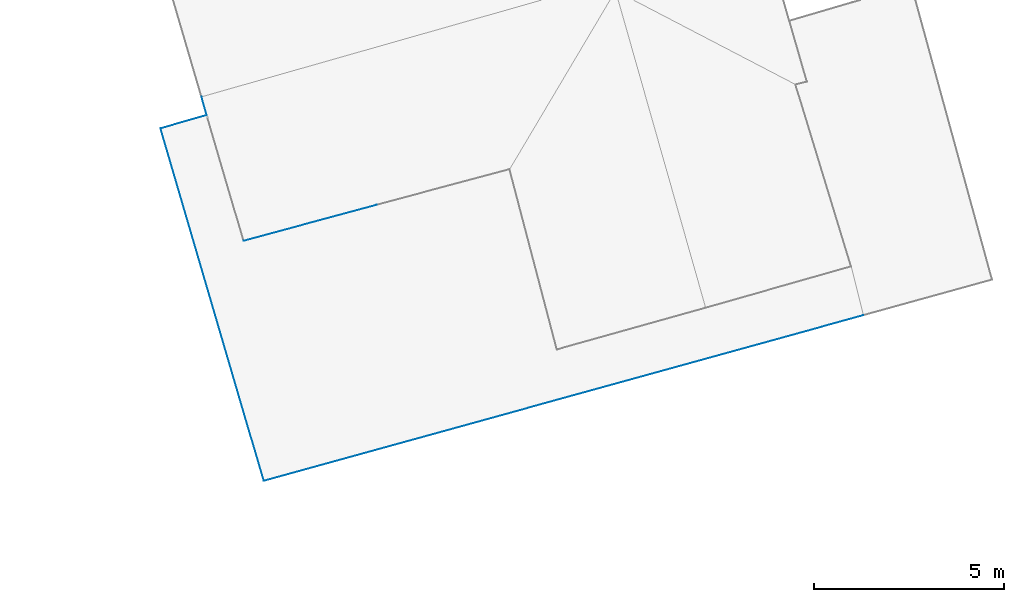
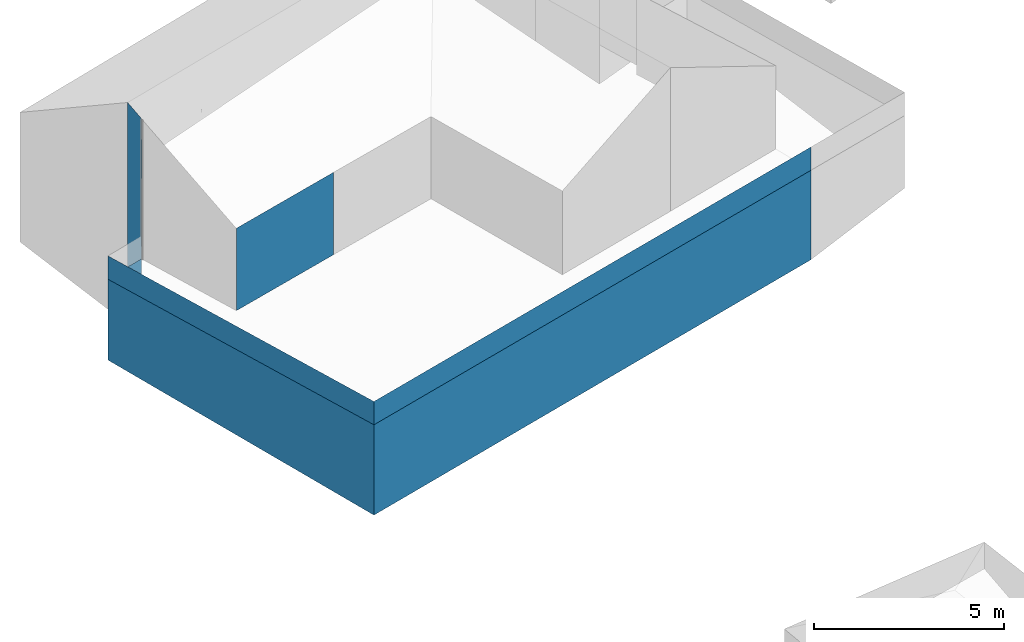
# Not in any storey, part 15 of 57: 9 walls.
"""IFC4 building model written with IfcOpenShell, lengths in metres."""

from ifc_helpers import new_model, entity, si_unit, converted_unit, origin, place, context, subcontext, project, spatial, face_set, surface_model, element, save


model = new_model("IFC4")

# Units and contexts
model_context = context("Model", 3, precision=1e-05, world=origin())
body_context = subcontext(model_context, "Body", "Model", "MODEL_VIEW")
ifc_project = project(units=[converted_unit("PLANEANGLEUNIT", "DEGREE", entity("IfcRatioMeasure", 0.0174532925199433), si_unit("PLANEANGLEUNIT", "RADIAN"), dimensions=[0, 0, 0, 0, 0, 0, 0]), si_unit("AREAUNIT", "SQUARE_METRE"), si_unit("LENGTHUNIT", "METRE")], contexts=[model_context])

# Site, building
site_placement = place(None, origin())
site = spatial("IfcSite", under=ifc_project, at=site_placement, Name="_site")
building_placement = place(site_placement, origin())
building = spatial("IfcBuilding", under=site, at=building_placement, Name="_building")

# Walls
wall_1_placement = place(building_placement, origin())
element("IfcWall", 1, at=wall_1_placement, inside=building, Name="Wall", PredefinedType="NOTDEFINED", context=body_context, shape_type="SurfaceModel", body=[
    surface_model("IfcFaceBasedSurfaceModel", [(95.099, 130.568, 117.72), (96.318, 130.92, 117.72), (96.318, 130.92, 115.266), (95.099, 130.568, 115.106)], [face_set([[[0, 1, 2, 3]]])]),
])
wall_2_placement = place(building_placement, origin())
element("IfcWall", 2, at=wall_2_placement, inside=building, Name="Wall", PredefinedType="NOTDEFINED", context=body_context, shape_type="SurfaceModel", body=[
    surface_model("IfcFaceBasedSurfaceModel", [(96.318, 130.92, 122.23), (96.18, 131.403, 122.5), (96.18, 131.403, 115.368), (96.318, 130.92, 115.266)], [face_set([[[0, 1, 2, 3]]])]),
])
wall_3_placement = place(building_placement, origin())
element("IfcWall", 3, at=wall_3_placement, inside=building, Name="Wall", PredefinedType="NOTDEFINED", context=body_context, shape_type="SurfaceModel", body=[
    surface_model("IfcFaceBasedSurfaceModel", [(113.626, 125.643, 117.72), (97.824, 121.278, 117.72), (97.824, 121.278, 114.801), (113.626, 125.643, 114.829)], [face_set([[[0, 1, 2, 3]]])]),
])
wall_4_placement = place(building_placement, origin())
element("IfcWall", 4, at=wall_4_placement, inside=building, Name="Wall", PredefinedType="NOTDEFINED", context=body_context, shape_type="SurfaceModel", body=[
    surface_model("IfcFaceBasedSurfaceModel", [(100.796, 128.553, 120.37), (97.291, 127.605, 120.37), (97.291, 127.605, 117.72), (100.796, 128.553, 117.72)], [face_set([[[0, 1, 2, 3]]])]),
])
wall_5_placement = place(building_placement, origin())
element("IfcWall", 5, at=wall_5_placement, inside=building, Name="Wall", PredefinedType="NOTDEFINED", context=body_context, shape_type="SurfaceModel", body=[
    surface_model("IfcFaceBasedSurfaceModel", [(97.824, 121.278, 117.72), (95.099, 130.568, 117.72), (95.099, 130.568, 115.106), (97.824, 121.278, 114.801)], [face_set([[[0, 1, 2, 3]]])]),
])
wall_6_placement = place(building_placement, origin())
element("IfcWall", 6, at=wall_6_placement, inside=building, Name="Wall", PredefinedType="NOTDEFINED", context=body_context, shape_type="SurfaceModel", body=[
    surface_model("IfcFaceBasedSurfaceModel", [(95.099, 130.568, 117.704), (97.824, 121.278, 117.704), (97.824, 121.278, 118.454), (95.099, 130.568, 118.454)], [face_set([[[0, 1, 2, 3]]])]),
])
wall_7_placement = place(building_placement, origin())
element("IfcWall", 7, at=wall_7_placement, inside=building, Name="Wall", PredefinedType="NOTDEFINED", context=body_context, shape_type="SurfaceModel", body=[
    surface_model("IfcFaceBasedSurfaceModel", [(97.824, 121.278, 117.704), (113.626, 125.643, 117.704), (113.626, 125.643, 118.454), (97.824, 121.278, 118.454)], [face_set([[[0, 1, 2, 3]]])]),
])
wall_8_placement = place(building_placement, origin())
element("IfcWall", 8, at=wall_8_placement, inside=building, Name="Wall", PredefinedType="NOTDEFINED", context=body_context, shape_type="SurfaceModel", body=[
    surface_model("IfcFaceBasedSurfaceModel", [(95.099, 130.568, 117.704), (97.824, 121.278, 117.704), (97.824, 121.278, 118.454), (95.099, 130.568, 118.454)], [face_set([[[0, 1, 2, 3]]])]),
])
wall_9_placement = place(building_placement, origin())
element("IfcWall", 9, at=wall_9_placement, inside=building, Name="Wall", PredefinedType="NOTDEFINED", context=body_context, shape_type="SurfaceModel", body=[
    surface_model("IfcFaceBasedSurfaceModel", [(97.824, 121.278, 117.704), (113.626, 125.643, 117.704), (113.626, 125.643, 118.454), (97.824, 121.278, 118.454)], [face_set([[[0, 1, 2, 3]]])]),
])

save(model, "model.ifc")
